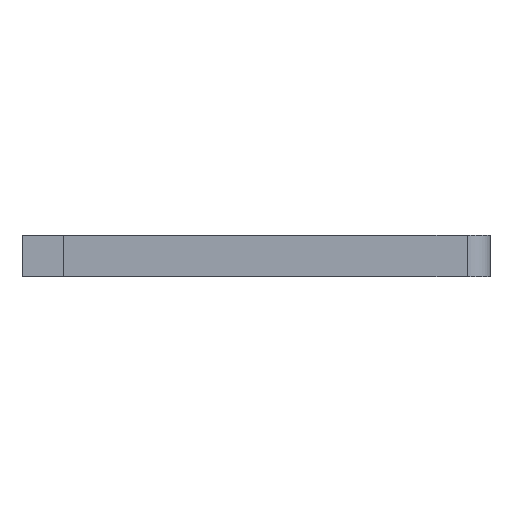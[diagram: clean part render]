
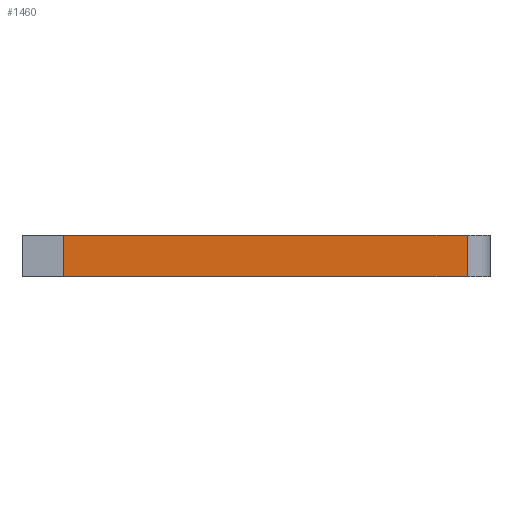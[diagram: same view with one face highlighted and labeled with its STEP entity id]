
A CAD part, left-side view. The second image highlights one B-rep face of the part: STEP entity #1460.
In plain terms, the highlighted planar face has unit normal (-1, 0, 0).
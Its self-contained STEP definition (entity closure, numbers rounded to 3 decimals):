
#108 = EDGE_CURVE ( 'NONE', #916, #185, #672, .T. ) ;
#181 = DIRECTION ( 'NONE',  ( 0., -1., 0. ) ) ;
#185 = VERTEX_POINT ( 'NONE', #1643 ) ;
#213 = VECTOR ( 'NONE', #1462, 1000. ) ;
#313 = DIRECTION ( 'NONE',  ( 0., 0., -1. ) ) ;
#322 = PLANE ( 'NONE',  #1175 ) ;
#329 = CARTESIAN_POINT ( 'NONE',  ( 0., 9.951, 0. ) ) ;
#398 = VECTOR ( 'NONE', #181, 1000. ) ;
#444 = EDGE_LOOP ( 'NONE', ( #1644, #1369, #524, #612 ) ) ;
#524 = ORIENTED_EDGE ( 'NONE', *, *, #108, .F. ) ;
#555 = DIRECTION ( 'NONE',  ( 0., -1., 0. ) ) ;
#591 = VERTEX_POINT ( 'NONE', #910 ) ;
#612 = ORIENTED_EDGE ( 'NONE', *, *, #1181, .T. ) ;
#672 = LINE ( 'NONE', #1052, #1349 ) ;
#682 = VECTOR ( 'NONE', #313, 1000. ) ;
#698 = CARTESIAN_POINT ( 'NONE',  ( 0., 185.951, 0. ) ) ;
#731 = EDGE_CURVE ( 'NONE', #591, #1139, #1065, .T. ) ;
#732 = DIRECTION ( 'NONE',  ( 1., 0., 0. ) ) ;
#759 = FACE_OUTER_BOUND ( 'NONE', #444, .T. ) ;
#890 = LINE ( 'NONE', #1465, #682 ) ;
#910 = CARTESIAN_POINT ( 'NONE',  ( 0., 185.951, 0. ) ) ;
#916 = VERTEX_POINT ( 'NONE', #1128 ) ;
#1052 = CARTESIAN_POINT ( 'NONE',  ( 0., 185.951, 18. ) ) ;
#1065 = LINE ( 'NONE', #698, #398 ) ;
#1128 = CARTESIAN_POINT ( 'NONE',  ( 0., 185.951, 18. ) ) ;
#1139 = VERTEX_POINT ( 'NONE', #329 ) ;
#1175 = AXIS2_PLACEMENT_3D ( 'NONE', #1495, #732, #1372 ) ;
#1181 = EDGE_CURVE ( 'NONE', #916, #591, #1570, .T. ) ;
#1237 = EDGE_CURVE ( 'NONE', #185, #1139, #890, .T. ) ;
#1349 = VECTOR ( 'NONE', #555, 1000. ) ;
#1369 = ORIENTED_EDGE ( 'NONE', *, *, #1237, .F. ) ;
#1372 = DIRECTION ( 'NONE',  ( 0., 0., -1. ) ) ;
#1460 = ADVANCED_FACE ( 'NONE', ( #759 ), #322, .F. ) ;
#1462 = DIRECTION ( 'NONE',  ( 0., 0., -1. ) ) ;
#1465 = CARTESIAN_POINT ( 'NONE',  ( 0., 9.951, 18. ) ) ;
#1495 = CARTESIAN_POINT ( 'NONE',  ( 0., 185.951, 18. ) ) ;
#1570 = LINE ( 'NONE', #1599, #213 ) ;
#1599 = CARTESIAN_POINT ( 'NONE',  ( 0., 185.951, 18. ) ) ;
#1643 = CARTESIAN_POINT ( 'NONE',  ( 0., 9.951, 18. ) ) ;
#1644 = ORIENTED_EDGE ( 'NONE', *, *, #731, .T. ) ;
